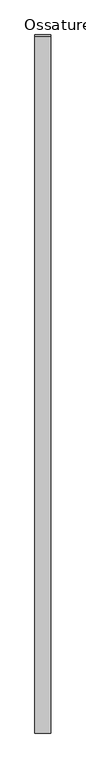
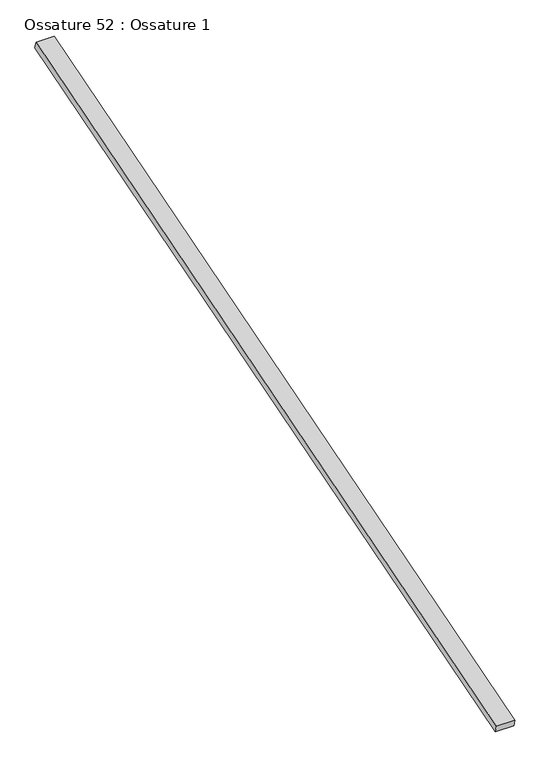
"""IFC4 building model written with IfcOpenShell, lengths in millimetres: beam geometry, Ossature 52 : Ossature 1."""

import ifcopenshell
import ifcopenshell.guid

model = None  # the IFC model being written
_history = None  # IfcOwnerHistory: only IFC2X3 demands one
_inside = {}  # id of a spatial element -> (the spatial element, [elements in it])
_under = {}  # id of a project, library or spatial element -> (it, [spatial elements below it])
_declared = {}  # id of a project -> (the project, [libraries it declares])
_typed = {}  # id of a type object -> (the type object, [elements of that type])
_made_of = {}  # id of a material, layer set ... -> (it, [elements and type objects made of it])


def new_model(schema):
    """Start an empty IFC model of exactly this schema.

    Asked for "IFC4X3", IfcOpenShell would pick the latest addendum, in which some entities
    have other attributes; the version numbers below select the first issue.
    IFC2X3 requires an IfcOwnerHistory on every rooted entity: one is made here for all.
    """
    global model, _history
    if schema == "IFC4X3":
        model = ifcopenshell.file(schema_version=(4, 3, 0, 0))
    else:
        model = ifcopenshell.file(schema=schema)
    _inside.clear()
    _under.clear()
    _declared.clear()
    _typed.clear()
    _made_of.clear()
    _history = None
    if model.schema == "IFC2X3":
        org = make("IfcOrganization", Name="unknown")
        user = make(
            "IfcPersonAndOrganization",
            ThePerson=make("IfcPerson", FamilyName="unknown"),
            TheOrganization=org,
        )
        app = make(
            "IfcApplication",
            ApplicationDeveloper=org,
            Version="unknown",
            ApplicationFullName="unknown",
            ApplicationIdentifier="unknown",
        )
        _history = make(
            "IfcOwnerHistory",
            OwningUser=user,
            OwningApplication=app,
            ChangeAction="ADDED",
            CreationDate=0,
        )
    return model


def make(cls, **values):
    """One entity of the class cls with the attributes given. An attribute that is None is left unset."""
    return model.create_entity(
        cls, **{name: value for name, value in values.items() if value is not None}
    )


def rooted(cls, **values):
    """An entity with a GlobalId (a new one), such as an element, a storey or a relation."""
    return make(cls, GlobalId=ifcopenshell.guid.new(), OwnerHistory=_history, **values)


def si_unit(unit_type, name, prefix=None):
    """IfcSIUnit, for example si_unit("LENGTHUNIT", "METRE", prefix="MILLI")."""
    return make("IfcSIUnit", UnitType=unit_type, Prefix=prefix, Name=name)


def assignment(units):
    """IfcUnitAssignment: the units of a project."""
    return None if units is None else make("IfcUnitAssignment", Units=units)


def point(xyz):
    """IfcCartesianPoint."""
    return None if xyz is None else make("IfcCartesianPoint", Coordinates=xyz)


def direction(xyz):
    """IfcDirection."""
    return None if xyz is None else make("IfcDirection", DirectionRatios=xyz)


def frame(location, z_axis=None, x_axis=None):
    """IfcAxis2Placement3D, a coordinate frame: its origin and axes. An axis left out is left unset."""
    return make(
        "IfcAxis2Placement3D",
        Location=point(location),
        Axis=direction(z_axis),
        RefDirection=direction(x_axis),
    )


def origin():
    """The frame at (0, 0, 0) with its axes left unset."""
    return frame((0.0, 0.0, 0.0))


def place(relative_to, where):
    """IfcLocalPlacement: puts the frame where relative to a parent placement (None: the world)."""
    return make(
        "IfcLocalPlacement", PlacementRelTo=relative_to, RelativePlacement=where
    )


def context(
    kind, dimensions, precision=None, world=None, true_north=None, identifier=None
):
    """IfcGeometricRepresentationContext, for example the 3D "Model" context."""
    return make(
        "IfcGeometricRepresentationContext",
        ContextIdentifier=identifier,
        ContextType=kind,
        CoordinateSpaceDimension=dimensions,
        Precision=precision,
        WorldCoordinateSystem=world,
        TrueNorth=true_north,
    )


def project(units=None, contexts=None):
    """IfcProject with its units and contexts."""
    return rooted(
        "IfcProject",
        Name="project",
        RepresentationContexts=contexts,
        UnitsInContext=assignment(units),
    )


def spatial(cls, under=None, at=None, **own):
    """A site, building, storey or space (cls), placed at a placement, below another one or the project."""
    s = rooted(cls, ObjectPlacement=at, **own)
    if under is not None:
        _under.setdefault(under.id(), (under, []))[1].append(s)
    return s


def polyline(points):
    """IfcPolyline through the points."""
    return make("IfcPolyline", Points=[point(p) for p in points])


def outline(outer, holes=None, kind="AREA"):
    """IfcArbitraryClosedProfileDef: a profile drawn as a closed curve; with holes, ...WithVoids."""
    if holes is None:
        return make("IfcArbitraryClosedProfileDef", ProfileType=kind, OuterCurve=outer)
    return make(
        "IfcArbitraryProfileDefWithVoids",
        ProfileType=kind,
        OuterCurve=outer,
        InnerCurves=holes,
    )


def extrude(swept, where, along, depth):
    """IfcExtrudedAreaSolid: the profile swept, set in the frame where, extruded along a direction by depth."""
    return make(
        "IfcExtrudedAreaSolid",
        SweptArea=swept,
        Position=where,
        ExtrudedDirection=direction(along),
        Depth=depth,
    )


def shape(context_of_items, identifier, shape_type, items):
    """IfcShapeRepresentation: the items that make up one representation, for example the "Body"."""
    return make(
        "IfcShapeRepresentation",
        ContextOfItems=context_of_items,
        RepresentationIdentifier=identifier,
        RepresentationType=shape_type,
        Items=items,
    )


def source(mapping_origin, context_of_items, identifier, shape_type, items):
    """IfcRepresentationMap: a shape defined once, which mapped items show again and again."""
    return make(
        "IfcRepresentationMap",
        MappingOrigin=mapping_origin,
        MappedRepresentation=shape(context_of_items, identifier, shape_type, items),
    )


def transform(
    local_origin,
    x_axis=None,
    y_axis=None,
    z_axis=None,
    scale=None,
    scale2=None,
    scale3=None,
    uniform=True,
):
    """IfcCartesianTransformationOperator3D, or its non-uniform kind. x_axis, y_axis, z_axis: its Axis1, 2, 3."""
    if uniform:
        return make(
            "IfcCartesianTransformationOperator3D",
            Axis1=direction(x_axis),
            Axis2=direction(y_axis),
            LocalOrigin=point(local_origin),
            Scale=scale,
            Axis3=direction(z_axis),
        )
    return make(
        "IfcCartesianTransformationOperator3DnonUniform",
        Axis1=direction(x_axis),
        Axis2=direction(y_axis),
        LocalOrigin=point(local_origin),
        Scale=scale,
        Axis3=direction(z_axis),
        Scale2=scale2,
        Scale3=scale3,
    )


def mapped(mapping_source, mapping_target):
    """IfcMappedItem: shows the shape of a source again, moved by a transform."""
    return make(
        "IfcMappedItem", MappingSource=mapping_source, MappingTarget=mapping_target
    )


def made_of(thing, what):
    """Note that an element or type object is made of a material, layer set ...; save() writes the relation."""
    if what is not None:
        _made_of.setdefault(what.id(), (what, []))[1].append(thing)
    return thing


def element(
    cls,
    number,
    at=None,
    inside=None,
    cuts=None,
    type_object=None,
    material=None,
    context=None,
    identifier="Body",
    shape_type=None,
    held_by="IfcProductDefinitionShape",
    body=None,
    shapes=None,
    **own,
):
    """One element of the class cls, such as IfcWall. Its Tag is "e" and its number.

    at: its placement. inside: the storey or other place that contains it. cuts: it is an
    opening in that element (IfcRelVoidsElement). A single representation is given by context,
    identifier, shape_type and body (its items); several are given by shapes. held_by: the class
    of the entity that holds the representations. save() writes the other relations.
    """
    e = rooted(cls, Tag="e%d" % number, ObjectPlacement=at, **own)
    if body is not None:
        shapes = [shape(context, identifier, shape_type, body)]
    if shapes is not None:
        e.Representation = make(held_by, Representations=shapes)
    if inside is not None:
        _inside.setdefault(inside.id(), (inside, []))[1].append(e)
    if cuts is not None:
        rooted(
            "IfcRelVoidsElement", RelatingBuildingElement=cuts, RelatedOpeningElement=e
        )
    if type_object is not None:
        _typed.setdefault(type_object.id(), (type_object, []))[1].append(e)
    return made_of(e, material)


def aggregate(whole, parts):
    """IfcRelAggregates: a whole, such as a stair, and the parts it consists of."""
    return rooted("IfcRelAggregates", RelatingObject=whole, RelatedObjects=parts)


def save(model, path):
    """Write the relations noted so far, then the file.

    IfcRelAggregates (storeys below a building ...), IfcRelContainedInSpatialStructure (elements
    in a storey), IfcRelDefinesByType, IfcRelAssociatesMaterial and IfcRelDeclares: one each for
    every whole, place, type object, material and project.
    """
    for whole, parts in _under.values():
        aggregate(whole, parts)
    for where, things in _inside.values():
        rooted(
            "IfcRelContainedInSpatialStructure",
            RelatedElements=things,
            RelatingStructure=where,
        )
    for kind, things in _typed.values():
        rooted("IfcRelDefinesByType", RelatedObjects=things, RelatingType=kind)
    for what, things in _made_of.values():
        rooted("IfcRelAssociatesMaterial", RelatedObjects=things, RelatingMaterial=what)
    for by, libraries in _declared.values():
        rooted("IfcRelDeclares", RelatingContext=by, RelatedDefinitions=libraries)
    model.write(path)


def ossature_52_ossature_1_a251504f(model_context):
    return source(origin(), model_context, "Body", "SweptSolid", [
        extrude(outline(polyline([(0.0, 0.0), (0.0, -4543.0299679), (-100.0, -4543.0299679), (-100.0, 0.0), (0.0, 0.0)])), frame((12681.2466393, -833.3913565, 8153.6336115), z_axis=(0.0, -0.28734788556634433, 0.9578262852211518), x_axis=(-1.0, 0.0, 0.0)), (0.0, 0.0, 1.0), 40.0),
    ])


if __name__ == "__main__":
    model = new_model("IFC4")
    model_context = context("Model", 3, world=origin())
    ifc_project = project(units=[si_unit("LENGTHUNIT", "METRE", prefix="MILLI")], contexts=[model_context])
    site = spatial("IfcSite", under=ifc_project)
    building = spatial("IfcBuilding", under=site)
    placement = place(None, origin())
    ossature_52_ossature_1_shape = ossature_52_ossature_1_a251504f(model_context)
    element("IfcBeam", 1, ObjectType="Ossature 52 : Ossature 1", at=placement, inside=building, context=model_context, shape_type="MappedRepresentation", body=[
        mapped(ossature_52_ossature_1_shape, transform((0.0, 0.0, 0.0), x_axis=(1.0, 0.0, 0.0), y_axis=(0.0, 1.0, 0.0), z_axis=(0.0, 0.0, 1.0))),
    ])
    save(model, "model.ifc")
